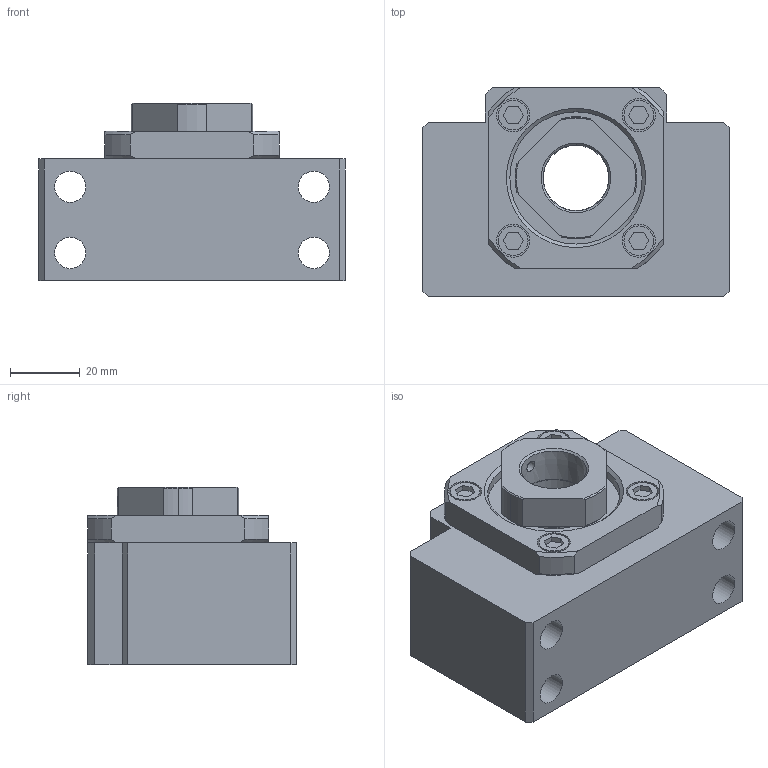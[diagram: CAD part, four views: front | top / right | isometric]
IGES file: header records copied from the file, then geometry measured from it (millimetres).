
Start section: Data from Parasolid IGES Translator 26.0.171, Copyright(c) 2006 Siemens PLM Software. All Rights Reserved.
Global section: file name: BK20Yes.igs; native system: By Siemens PLM Incorporated; preprocessor: XPlus GENERIC/IGES 26.0.171; author: Noname; organization: Noname; date: 20250611.001043; units: millimetre
Bounding box: 88 x 60 x 51 mm (x, y, z)
Surface area: 45513.9 mm2 (no closed solid volume)
Topology: 0 solids, 0 shells, 156 faces, 728 edges, 680 vertices
Faces by surface type: extrusion 94, revolution 62
